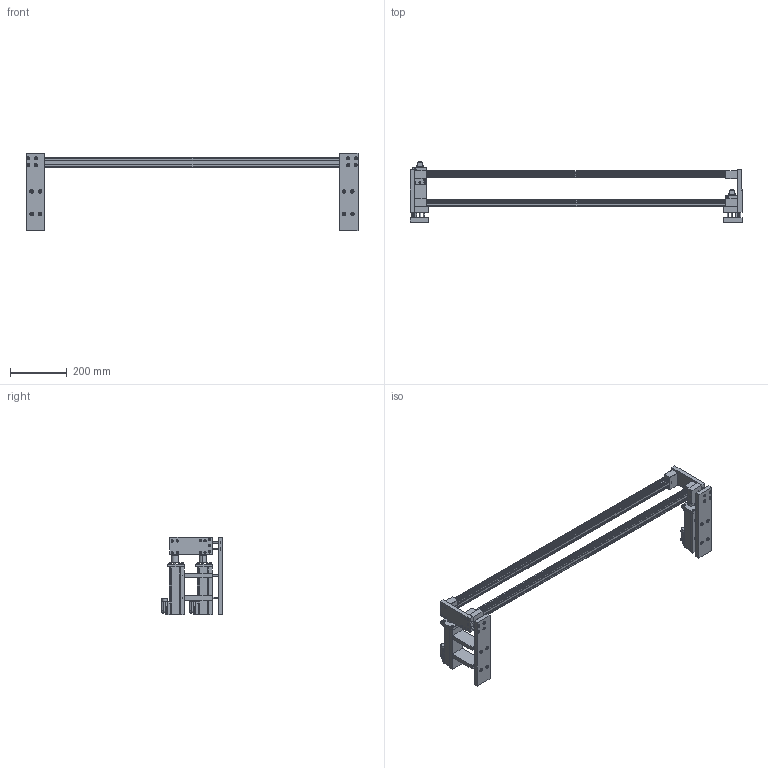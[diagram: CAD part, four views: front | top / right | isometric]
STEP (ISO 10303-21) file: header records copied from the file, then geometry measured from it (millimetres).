
FILE_DESCRIPTION (( 'STEP AP203' ), '1' );
FILE_NAME ('allPartsWithoutSlidersAndPendulums_Default_sldprt.STEP', '2020-04-06T12:54:12', ( '' ), ( '' ), 'SwSTEP 2.0', 'SolidWorks 2018', '' );
FILE_SCHEMA (( 'CONFIG_CONTROL_DESIGN' ));
Products named in the file (1): allPartsWithoutSlidersAndPendulums_Default_sldprt
Bounding box: 1174 x 213.88 x 274 mm (x, y, z)
Surface area: 942032.1 mm2 (no closed solid volume)
Topology: 0 solids, 97 shells, 3317 faces, 8171 edges, 5006 vertices
Faces by surface type: plane 1652, cylinder 927, cone 346, torus 232, bspline 160
Entity records: 104776 total; most frequent: CARTESIAN_POINT 28945, ORIENTED_EDGE 16010, DIRECTION 15135, EDGE_CURVE 8017, AXIS2_PLACEMENT_3D 5514, VERTEX_POINT 5006, VECTOR 4107, LINE 4107
